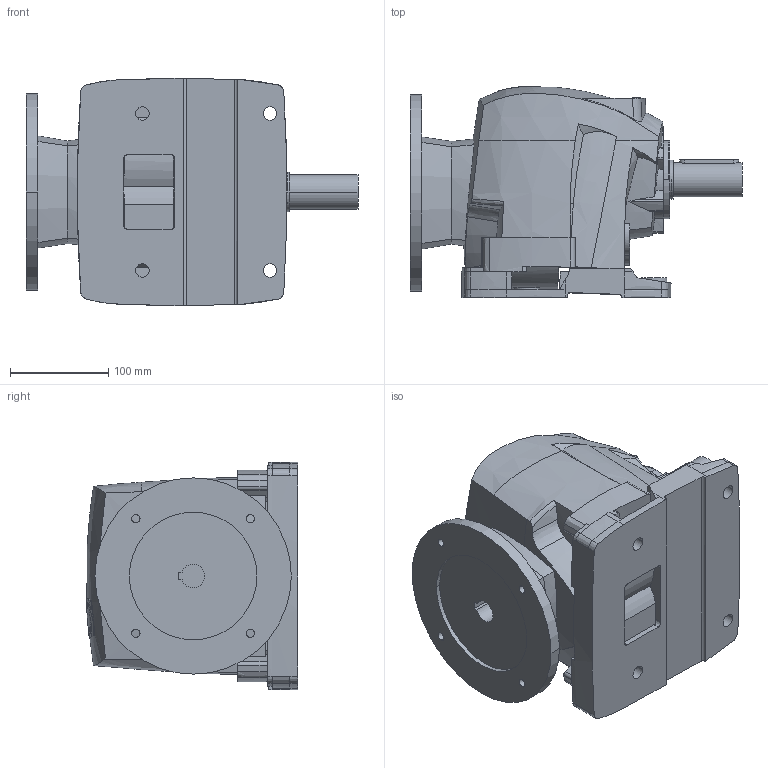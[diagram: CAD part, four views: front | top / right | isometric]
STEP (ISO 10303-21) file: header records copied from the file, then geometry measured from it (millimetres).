
FILE_DESCRIPTION((''),'2;1');
FILE_NAME('R30_BF_PAM90_D2','2013-11-21T',('Luca'),(''),'PRO/ENGINEER BY PARAMETRIC TECHNOLOGY CORPORATION, 2008230','PRO/ENGINEER BY PARAMETRIC TECHNOLOGY CORPORATION, 2008230','');
FILE_SCHEMA(('CONFIG_CONTROL_DESIGN'));
Length unit declared in the file: millimetre
Products named in the file (1): R30_BF_PAM90_D2
Bounding box: 338.21 x 215.27 x 231.54 mm (x, y, z)
Volume: 7464095.3 mm3; surface area: 398824.8 mm2
Topology: 6 solids, 6 shells, 480 faces, 1340 edges, 890 vertices
Faces by surface type: plane 182, cylinder 131, bspline 86, extrusion 53, cone 24, torus 4
Entity records: 19892 total; most frequent: CARTESIAN_POINT 8451, ORIENTED_EDGE 2668, DIRECTION 1846, EDGE_CURVE 1334, VERTEX_POINT 888, VECTOR 688, LINE 635, AXIS2_PLACEMENT_3D 579
